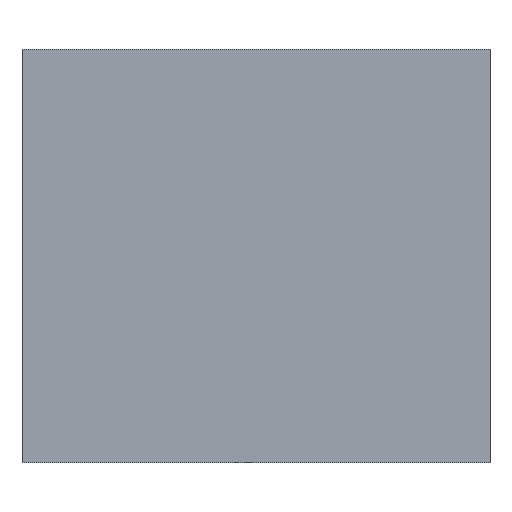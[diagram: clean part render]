
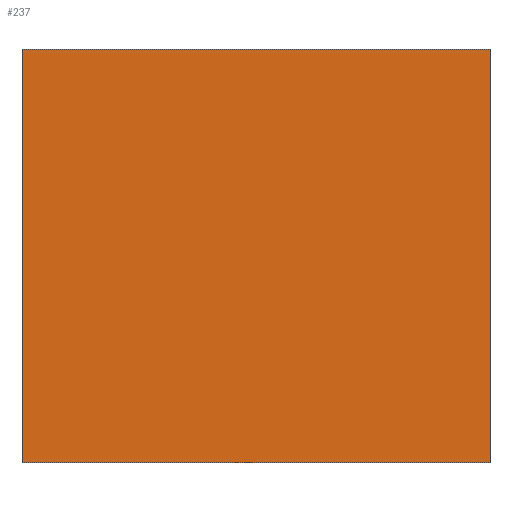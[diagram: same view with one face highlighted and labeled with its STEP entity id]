
A CAD part, front view. The second image highlights one B-rep face of the part: STEP entity #237.
In plain terms, the highlighted planar face has unit normal (0, -1, 0).
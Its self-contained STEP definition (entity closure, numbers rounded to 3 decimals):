
#21 = EDGE_CURVE('',#22,#24,#26,.T.);
#22 = VERTEX_POINT('',#23);
#23 = CARTESIAN_POINT('',(-35.77,1.45,21.29));
#24 = VERTEX_POINT('',#25);
#25 = CARTESIAN_POINT('',(-35.77,1.45,29.19));
#26 = SURFACE_CURVE('',#27,(#31,#43),.PCURVE_S1.);
#27 = LINE('',#28,#29);
#28 = CARTESIAN_POINT('',(-35.77,1.45,21.29));
#29 = VECTOR('',#30,1.);
#30 = DIRECTION('',(0.,0.,1.));
#31 = PCURVE('',#32,#37);
#32 = PLANE('',#33);
#33 = AXIS2_PLACEMENT_3D('',#34,#35,#36);
#34 = CARTESIAN_POINT('',(-35.77,1.45,21.29));
#35 = DIRECTION('',(1.,0.,-0.));
#36 = DIRECTION('',(0.,0.,1.));
#37 = DEFINITIONAL_REPRESENTATION('',(#38),#42);
#38 = LINE('',#39,#40);
#39 = CARTESIAN_POINT('',(0.,0.));
#40 = VECTOR('',#41,1.);
#41 = DIRECTION('',(1.,0.));
#42 = ( GEOMETRIC_REPRESENTATION_CONTEXT(2) 
PARAMETRIC_REPRESENTATION_CONTEXT() REPRESENTATION_CONTEXT('2D SPACE',''
  ) );
#43 = PCURVE('',#44,#49);
#44 = PLANE('',#45);
#45 = AXIS2_PLACEMENT_3D('',#46,#47,#48);
#46 = CARTESIAN_POINT('',(-35.77,1.45,21.29));
#47 = DIRECTION('',(-0.,1.,0.));
#48 = DIRECTION('',(0.,0.,1.));
#49 = DEFINITIONAL_REPRESENTATION('',(#50),#54);
#50 = LINE('',#51,#52);
#51 = CARTESIAN_POINT('',(0.,0.));
#52 = VECTOR('',#53,1.);
#53 = DIRECTION('',(1.,0.));
#54 = ( GEOMETRIC_REPRESENTATION_CONTEXT(2) 
PARAMETRIC_REPRESENTATION_CONTEXT() REPRESENTATION_CONTEXT('2D SPACE',''
  ) );
#72 = PLANE('',#73);
#73 = AXIS2_PLACEMENT_3D('',#74,#75,#76);
#74 = CARTESIAN_POINT('',(-35.77,1.45,21.29));
#75 = DIRECTION('',(0.,0.,1.));
#76 = DIRECTION('',(1.,0.,-0.));
#126 = PLANE('',#127);
#127 = AXIS2_PLACEMENT_3D('',#128,#129,#130);
#128 = CARTESIAN_POINT('',(-35.77,1.45,29.19));
#129 = DIRECTION('',(0.,0.,1.));
#130 = DIRECTION('',(1.,0.,-0.));
#141 = EDGE_CURVE('',#142,#144,#146,.T.);
#142 = VERTEX_POINT('',#143);
#143 = CARTESIAN_POINT('',(-26.83,1.45,21.29));
#144 = VERTEX_POINT('',#145);
#145 = CARTESIAN_POINT('',(-26.83,1.45,29.19));
#146 = SURFACE_CURVE('',#147,(#151,#163),.PCURVE_S1.);
#147 = LINE('',#148,#149);
#148 = CARTESIAN_POINT('',(-26.83,1.45,21.29));
#149 = VECTOR('',#150,1.);
#150 = DIRECTION('',(0.,0.,1.));
#151 = PCURVE('',#152,#157);
#152 = PLANE('',#153);
#153 = AXIS2_PLACEMENT_3D('',#154,#155,#156);
#154 = CARTESIAN_POINT('',(-26.83,1.45,21.29));
#155 = DIRECTION('',(1.,0.,-0.));
#156 = DIRECTION('',(0.,0.,1.));
#157 = DEFINITIONAL_REPRESENTATION('',(#158),#162);
#158 = LINE('',#159,#160);
#159 = CARTESIAN_POINT('',(0.,0.));
#160 = VECTOR('',#161,1.);
#161 = DIRECTION('',(1.,0.));
#162 = ( GEOMETRIC_REPRESENTATION_CONTEXT(2) 
PARAMETRIC_REPRESENTATION_CONTEXT() REPRESENTATION_CONTEXT('2D SPACE',''
  ) );
#163 = PCURVE('',#44,#164);
#164 = DEFINITIONAL_REPRESENTATION('',(#165),#169);
#165 = LINE('',#166,#167);
#166 = CARTESIAN_POINT('',(0.,8.94));
#167 = VECTOR('',#168,1.);
#168 = DIRECTION('',(1.,0.));
#169 = ( GEOMETRIC_REPRESENTATION_CONTEXT(2) 
PARAMETRIC_REPRESENTATION_CONTEXT() REPRESENTATION_CONTEXT('2D SPACE',''
  ) );
#237 = ADVANCED_FACE('',(#238),#44,.F.);
#238 = FACE_BOUND('',#239,.F.);
#239 = EDGE_LOOP('',(#240,#261,#262,#283));
#240 = ORIENTED_EDGE('',*,*,#241,.F.);
#241 = EDGE_CURVE('',#22,#142,#242,.T.);
#242 = SURFACE_CURVE('',#243,(#247,#254),.PCURVE_S1.);
#243 = LINE('',#244,#245);
#244 = CARTESIAN_POINT('',(-35.77,1.45,21.29));
#245 = VECTOR('',#246,1.);
#246 = DIRECTION('',(1.,0.,-0.));
#247 = PCURVE('',#44,#248);
#248 = DEFINITIONAL_REPRESENTATION('',(#249),#253);
#249 = LINE('',#250,#251);
#250 = CARTESIAN_POINT('',(0.,0.));
#251 = VECTOR('',#252,1.);
#252 = DIRECTION('',(0.,1.));
#253 = ( GEOMETRIC_REPRESENTATION_CONTEXT(2) 
PARAMETRIC_REPRESENTATION_CONTEXT() REPRESENTATION_CONTEXT('2D SPACE',''
  ) );
#254 = PCURVE('',#72,#255);
#255 = DEFINITIONAL_REPRESENTATION('',(#256),#260);
#256 = LINE('',#257,#258);
#257 = CARTESIAN_POINT('',(0.,0.));
#258 = VECTOR('',#259,1.);
#259 = DIRECTION('',(1.,0.));
#260 = ( GEOMETRIC_REPRESENTATION_CONTEXT(2) 
PARAMETRIC_REPRESENTATION_CONTEXT() REPRESENTATION_CONTEXT('2D SPACE',''
  ) );
#261 = ORIENTED_EDGE('',*,*,#21,.T.);
#262 = ORIENTED_EDGE('',*,*,#263,.T.);
#263 = EDGE_CURVE('',#24,#144,#264,.T.);
#264 = SURFACE_CURVE('',#265,(#269,#276),.PCURVE_S1.);
#265 = LINE('',#266,#267);
#266 = CARTESIAN_POINT('',(-35.77,1.45,29.19));
#267 = VECTOR('',#268,1.);
#268 = DIRECTION('',(1.,0.,-0.));
#269 = PCURVE('',#44,#270);
#270 = DEFINITIONAL_REPRESENTATION('',(#271),#275);
#271 = LINE('',#272,#273);
#272 = CARTESIAN_POINT('',(7.9,0.));
#273 = VECTOR('',#274,1.);
#274 = DIRECTION('',(0.,1.));
#275 = ( GEOMETRIC_REPRESENTATION_CONTEXT(2) 
PARAMETRIC_REPRESENTATION_CONTEXT() REPRESENTATION_CONTEXT('2D SPACE',''
  ) );
#276 = PCURVE('',#126,#277);
#277 = DEFINITIONAL_REPRESENTATION('',(#278),#282);
#278 = LINE('',#279,#280);
#279 = CARTESIAN_POINT('',(0.,0.));
#280 = VECTOR('',#281,1.);
#281 = DIRECTION('',(1.,0.));
#282 = ( GEOMETRIC_REPRESENTATION_CONTEXT(2) 
PARAMETRIC_REPRESENTATION_CONTEXT() REPRESENTATION_CONTEXT('2D SPACE',''
  ) );
#283 = ORIENTED_EDGE('',*,*,#141,.F.);
